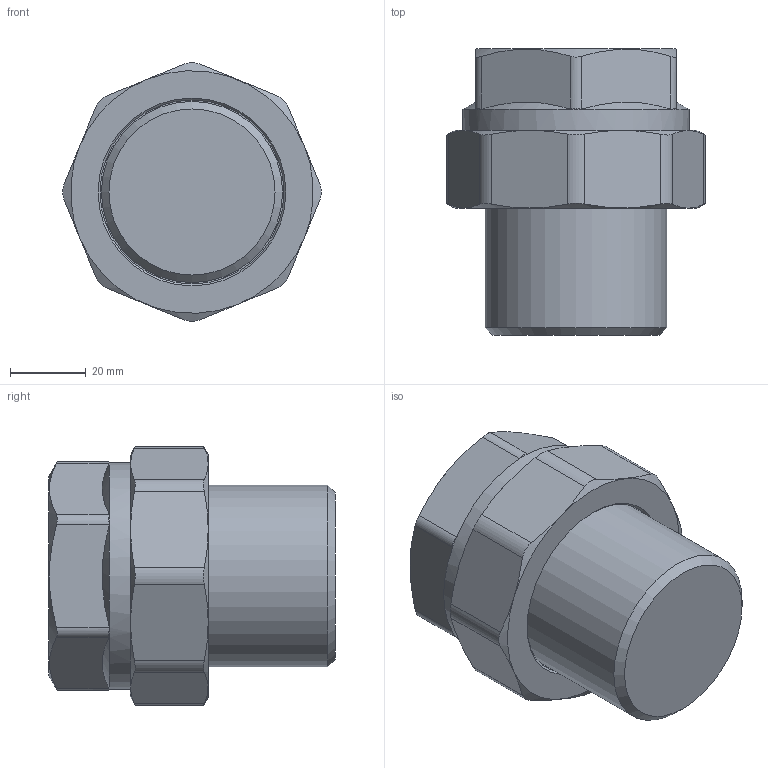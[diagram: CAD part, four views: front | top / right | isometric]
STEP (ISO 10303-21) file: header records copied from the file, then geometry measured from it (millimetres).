
FILE_DESCRIPTION(('STEP AP203'), '1');
FILE_NAME('覆.302612.005.000 捘 - VTr.341.N.0008', '2024-07-18T13:45:17', ('Boss'), (''), 'C3D Converter', 'C3D Toolkit', '');
FILE_SCHEMA(('CONFIG_CONTROL_DESIGN'));
Length unit declared in the file: millimetre
Products named in the file (1): ВР.302612.005.000 СБ
Bounding box: 68.28 x 75.55 x 68.28 mm (x, y, z)
Volume: 183333.2 mm3; surface area: 20701.2 mm2
Topology: 1 solids, 1 shells, 66 faces, 167 edges, 106 vertices
Faces by surface type: cone 30, plane 19, cylinder 17
Full cylindrical faces by diameter (mm): 47.803 x1, 48.5 x1, 59.614 x1
Entity records: 4111 total; most frequent: CARTESIAN_POINT 2744, ORIENTED_EDGE 302, DIRECTION 229, EDGE_CURVE 151, VERTEX_POINT 102, AXIS2_PLACEMENT_3D 94, B_SPLINE_CURVE_WITH_KNOTS 78, EDGE_LOOP 70
